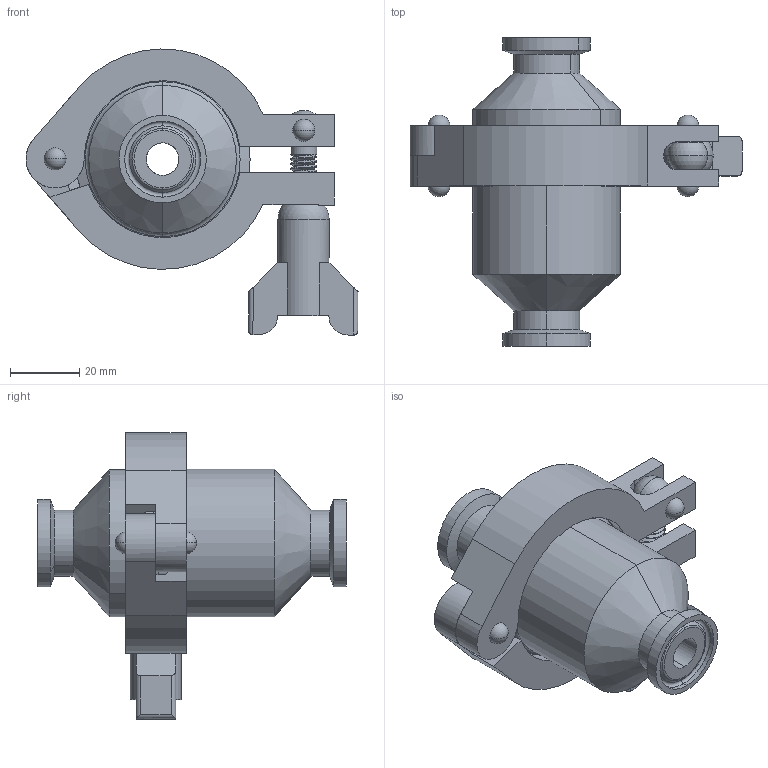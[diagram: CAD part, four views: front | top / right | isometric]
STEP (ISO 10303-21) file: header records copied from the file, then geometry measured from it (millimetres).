
FILE_DESCRIPTION (( 'STEP AP203' ), '1' );
FILE_NAME ('45C-6.5.STEP', '2019-11-14T20:41:12', ( 'vneprd' ), ( 'Microsoft' ), 'SwSTEP 2.0', 'SolidWorks 2018', '' );
FILE_SCHEMA (( 'CONFIG_CONTROL_DESIGN' ));
Length unit declared in the file: inch
Products named in the file (1): 45C-6.5
Bounding box: 95.65 x 88.9 x 82.41 mm (x, y, z)
Volume: 74889.3 mm3; surface area: 45590.3 mm2
Topology: 9 solids, 9 shells, 266 faces, 645 edges, 405 vertices
Faces by surface type: cylinder 130, plane 58, cone 35, torus 26, sphere 14, bspline 3
Entity records: 12157 total; most frequent: CARTESIAN_POINT 6027, DIRECTION 1291, ORIENTED_EDGE 1282, EDGE_CURVE 641, AXIS2_PLACEMENT_3D 519, VERTEX_POINT 403, EDGE_LOOP 294, ADVANCED_FACE 266
